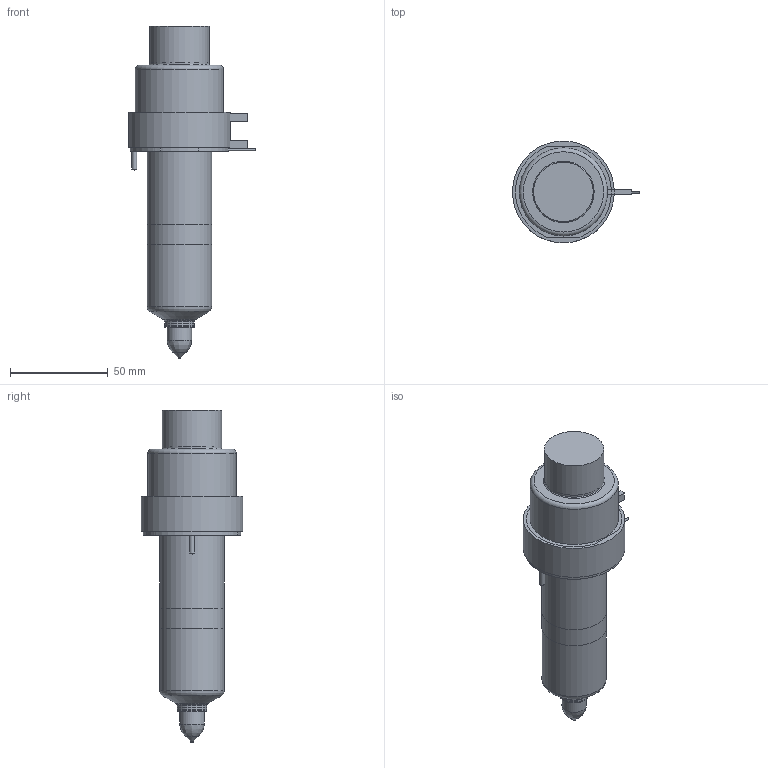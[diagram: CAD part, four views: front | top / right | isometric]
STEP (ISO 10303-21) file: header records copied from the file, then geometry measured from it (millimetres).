
FILE_DESCRIPTION(/* description */ (''),/* implementation_level */ '2;1');
FILE_NAME(/* name */ 'SXTT-SXIT19095-10_200C_b',/* time_stamp */ '2007-01-24T17:35:45+13:00',/* author */ (''),/* organization */ (''),/* preprocessor_version */ 'ST-DEVELOPER v9',/* originating_system */ 'UGS - NX 4.0',/* authorisation */ '');
FILE_SCHEMA (('CONFIG_CONTROL_DESIGN'));
Length unit declared in the file: millimetre
Products named in the file (1): SXTT-SXIT19095-10_200C_b
Bounding box: 64.85 x 52 x 169.48 mm (x, y, z)
Volume: 295804.7 mm3; surface area: 44361.3 mm2
Topology: 7 solids, 7 shells, 99 faces, 192 edges, 121 vertices
Faces by surface type: plane 45, cylinder 30, cone 12, torus 10, bspline 2
Full cylindrical faces by diameter (mm): 1 x3, 1.2 x1, 2.5 x2, 8 x1, 9 x1, 12.5 x1, 14.61 x1, 15.01 x2, 18.3 x1, 28.6 x1, 30 x1, 30.4 x1, 33 x2, 38.1 x1, 45 x1, 50 x1, 52 x1
Entity records: 2413 total; most frequent: CARTESIAN_POINT 486, DIRECTION 408, ORIENTED_EDGE 282, AXIS2_PLACEMENT_3D 179, EDGE_LOOP 156, EDGE_CURVE 141, VERTEX_POINT 114, ADVANCED_FACE 99
